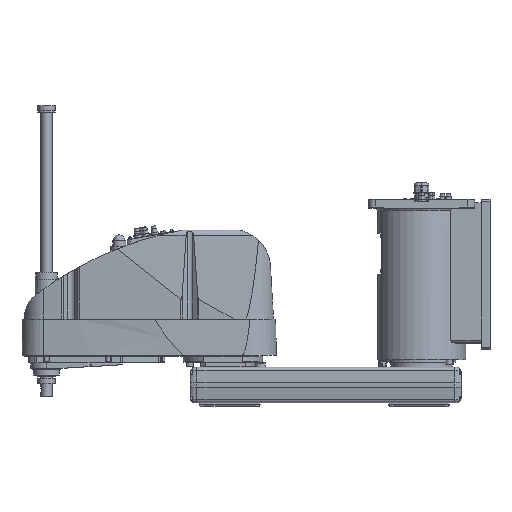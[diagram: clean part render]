
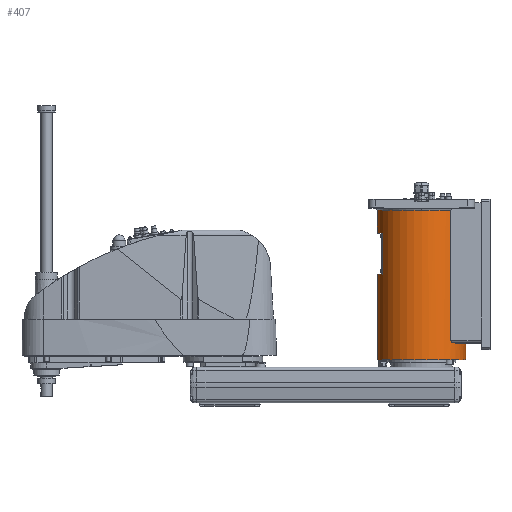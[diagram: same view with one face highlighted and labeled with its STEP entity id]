
A CAD part, top view. The second image highlights one B-rep face of the part: STEP entity #407.
In plain terms, the highlighted cylindrical face has radius 100 mm (diameter 200 mm), a partial arc.
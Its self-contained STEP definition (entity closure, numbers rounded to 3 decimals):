
#407 = ADVANCED_FACE( '', ( #2440 ), #2441, .T. );
#2440 = FACE_OUTER_BOUND( '', #6441, .T. );
#2441 = CYLINDRICAL_SURFACE( '', #6442, 100. );
#6441 = EDGE_LOOP( '', ( #11411, #11412, #11413, #11414, #11415, #11416, #11417, #11418, #11419, #11420, #11421, #11422, #11423, #11424, #11425, #11426 ) );
#6442 = AXIS2_PLACEMENT_3D( '', #11427, #11428, #11429 );
#11411 = ORIENTED_EDGE( '', *, *, #25046, .T. );
#11412 = ORIENTED_EDGE( '', *, *, #25154, .T. );
#11413 = ORIENTED_EDGE( '', *, *, #25145, .T. );
#11414 = ORIENTED_EDGE( '', *, *, #25141, .T. );
#11415 = ORIENTED_EDGE( '', *, *, #25148, .T. );
#11416 = ORIENTED_EDGE( '', *, *, #25153, .T. );
#11417 = ORIENTED_EDGE( '', *, *, #25157, .T. );
#11418 = ORIENTED_EDGE( '', *, *, #25158, .T. );
#11419 = ORIENTED_EDGE( '', *, *, #24481, .F. );
#11420 = ORIENTED_EDGE( '', *, *, #24486, .F. );
#11421 = ORIENTED_EDGE( '', *, *, #25052, .T. );
#11422 = ORIENTED_EDGE( '', *, *, #25159, .T. );
#11423 = ORIENTED_EDGE( '', *, *, #25160, .T. );
#11424 = ORIENTED_EDGE( '', *, *, #25161, .T. );
#11425 = ORIENTED_EDGE( '', *, *, #25048, .T. );
#11426 = ORIENTED_EDGE( '', *, *, #25162, .T. );
#11427 = CARTESIAN_POINT( '', ( 0., 194., 0. ) );
#11428 = DIRECTION( '', ( 0., -1., 0. ) );
#11429 = DIRECTION( '', ( 1., 0., 0. ) );
#24481 = EDGE_CURVE( '', #28928, #28930, #28931, .T. );
#24486 = EDGE_CURVE( '', #28938, #28928, #28940, .T. );
#25046 = EDGE_CURVE( '', #30032, #30033, #30034, .T. );
#25048 = EDGE_CURVE( '', #30037, #30035, #30038, .T. );
#25052 = EDGE_CURVE( '', #28938, #30043, #30045, .T. );
#25141 = EDGE_CURVE( '', #30191, #30192, #30193, .T. );
#25145 = EDGE_CURVE( '', #30199, #30191, #30200, .T. );
#25148 = EDGE_CURVE( '', #30192, #30204, #30205, .T. );
#25153 = EDGE_CURVE( '', #30204, #30211, #30213, .T. );
#25154 = EDGE_CURVE( '', #30033, #30199, #30214, .T. );
#25157 = EDGE_CURVE( '', #30211, #30218, #30219, .T. );
#25158 = EDGE_CURVE( '', #30218, #28930, #30220, .T. );
#25159 = EDGE_CURVE( '', #30043, #30221, #30222, .T. );
#25160 = EDGE_CURVE( '', #30221, #30223, #30224, .T. );
#25161 = EDGE_CURVE( '', #30223, #30037, #30225, .T. );
#25162 = EDGE_CURVE( '', #30035, #30032, #30226, .T. );
#28928 = VERTEX_POINT( '', #36272 );
#28930 = VERTEX_POINT( '', #36274 );
#28931 = CIRCLE( '', #36275, 100. );
#28938 = VERTEX_POINT( '', #36309 );
#28940 = CIRCLE( '', #36311, 100. );
#30032 = VERTEX_POINT( '', #37683 );
#30033 = VERTEX_POINT( '', #37684 );
#30034 = LINE( '', #37685, #37686 );
#30035 = VERTEX_POINT( '', #37687 );
#30037 = VERTEX_POINT( '', #37689 );
#30038 = LINE( '', #37690, #37691 );
#30043 = VERTEX_POINT( '', #37697 );
#30045 = LINE( '', #37699, #37700 );
#30191 = VERTEX_POINT( '', #37922 );
#30192 = VERTEX_POINT( '', #37923 );
#30193 = CIRCLE( '', #37924, 100. );
#30199 = VERTEX_POINT( '', #37933 );
#30200 = LINE( '', #37934, #37935 );
#30204 = VERTEX_POINT( '', #37941 );
#30205 = LINE( '', #37942, #37943 );
#30211 = VERTEX_POINT( '', #37952 );
#30213 = CIRCLE( '', #37955, 100. );
#30214 = CIRCLE( '', #37956, 100. );
#30218 = VERTEX_POINT( '', #37962 );
#30219 = B_SPLINE_CURVE_WITH_KNOTS( '', 3, ( #37963, #37964, #37965, #37966, #37967, #37968, #37969, #37970, #37971, #37972, #37973, #37974, #37975, #37976, #37977, #37978, #37979, #37980 ), .UNSPECIFIED., .F., .F., ( 4, 2, 2, 2, 2, 2, 2, 2, 4 ), ( 7.241, 8.361, 9.482, 10.602, 11.722, 12.472, 13.222, 13.972, 14.722 ), .UNSPECIFIED. );
#30220 = LINE( '', #37981, #37982 );
#30221 = VERTEX_POINT( '', #37983 );
#30222 = CIRCLE( '', #37984, 100. );
#30223 = VERTEX_POINT( '', #37985 );
#30224 = LINE( '', #37986, #37987 );
#30225 = CIRCLE( '', #37988, 100. );
#30226 = CIRCLE( '', #37989, 100. );
#36272 = CARTESIAN_POINT( '', ( 0., 363., 100. ) );
#36274 = CARTESIAN_POINT( '', ( 66.144, 363., 75. ) );
#36275 = AXIS2_PLACEMENT_3D( '', #48055, #48056, #48057 );
#36309 = CARTESIAN_POINT( '', ( -100., 363., 0. ) );
#36311 = AXIS2_PLACEMENT_3D( '', #48067, #48068, #48069 );
#37683 = CARTESIAN_POINT( '', ( 100., 25., 0. ) );
#37684 = CARTESIAN_POINT( '', ( 100., 64., 0. ) );
#37685 = CARTESIAN_POINT( '', ( 100., 194., 0. ) );
#37686 = VECTOR( '', #49187, 1. );
#37687 = CARTESIAN_POINT( '', ( -100., 25., 0. ) );
#37689 = CARTESIAN_POINT( '', ( -100., 218.3, 0. ) );
#37690 = CARTESIAN_POINT( '', ( -100., 194., 0. ) );
#37691 = VECTOR( '', #49191, 1. );
#37697 = CARTESIAN_POINT( '', ( -100., 311.3, 0. ) );
#37699 = CARTESIAN_POINT( '', ( -100., 194., 0. ) );
#37700 = VECTOR( '', #49199, 1. );
#37922 = CARTESIAN_POINT( '', ( 89.303, 62., 45. ) );
#37923 = CARTESIAN_POINT( '', ( 75.993, 62., 65. ) );
#37924 = AXIS2_PLACEMENT_3D( '', #49343, #49344, #49345 );
#37933 = CARTESIAN_POINT( '', ( 89.303, 64., 45. ) );
#37934 = CARTESIAN_POINT( '', ( 89.303, 63., 45. ) );
#37935 = VECTOR( '', #49349, 1. );
#37941 = CARTESIAN_POINT( '', ( 75.993, 64., 65. ) );
#37942 = CARTESIAN_POINT( '', ( 75.993, 63., 65. ) );
#37943 = VECTOR( '', #49352, 1. );
#37952 = CARTESIAN_POINT( '', ( 70.42, 64., 71. ) );
#37955 = AXIS2_PLACEMENT_3D( '', #49357, #49358, #49359 );
#37956 = AXIS2_PLACEMENT_3D( '', #49360, #49361, #49362 );
#37962 = CARTESIAN_POINT( '', ( 66.144, 68., 75. ) );
#37963 = CARTESIAN_POINT( '', ( 70.42, 64., 71. ) );
#37964 = CARTESIAN_POINT( '', ( 70.155, 64., 71.263 ) );
#37965 = CARTESIAN_POINT( '', ( 69.877, 64.026, 71.535 ) );
#37966 = CARTESIAN_POINT( '', ( 69.316, 64.139, 72.08 ) );
#37967 = CARTESIAN_POINT( '', ( 69.031, 64.224, 72.352 ) );
#37968 = CARTESIAN_POINT( '', ( 68.475, 64.457, 72.879 ) );
#37969 = CARTESIAN_POINT( '', ( 68.203, 64.604, 73.134 ) );
#37970 = CARTESIAN_POINT( '', ( 67.688, 64.954, 73.61 ) );
#37971 = CARTESIAN_POINT( '', ( 67.446, 65.158, 73.831 ) );
#37972 = CARTESIAN_POINT( '', ( 67.082, 65.542, 74.162 ) );
#37973 = CARTESIAN_POINT( '', ( 66.938, 65.716, 74.292 ) );
#37974 = CARTESIAN_POINT( '', ( 66.674, 66.103, 74.529 ) );
#37975 = CARTESIAN_POINT( '', ( 66.555, 66.315, 74.636 ) );
#37976 = CARTESIAN_POINT( '', ( 66.356, 66.766, 74.812 ) );
#37977 = CARTESIAN_POINT( '', ( 66.277, 67.005, 74.882 ) );
#37978 = CARTESIAN_POINT( '', ( 66.171, 67.497, 74.976 ) );
#37979 = CARTESIAN_POINT( '', ( 66.144, 67.75, 75. ) );
#37980 = CARTESIAN_POINT( '', ( 66.144, 68., 75. ) );
#37981 = CARTESIAN_POINT( '', ( 66.144, 215.5, 75. ) );
#37982 = VECTOR( '', #49365, 1. );
#37983 = CARTESIAN_POINT( '', ( -88., 311.3, 47.497 ) );
#37984 = AXIS2_PLACEMENT_3D( '', #49366, #49367, #49368 );
#37985 = CARTESIAN_POINT( '', ( -88., 218.3, 47.497 ) );
#37986 = CARTESIAN_POINT( '', ( -88., 264.8, 47.497 ) );
#37987 = VECTOR( '', #49369, 1. );
#37988 = AXIS2_PLACEMENT_3D( '', #49370, #49371, #49372 );
#37989 = AXIS2_PLACEMENT_3D( '', #49373, #49374, #49375 );
#48055 = CARTESIAN_POINT( '', ( 0., 363., 0. ) );
#48056 = DIRECTION( '', ( 0., 1., 0. ) );
#48057 = DIRECTION( '', ( 1., 0., 0. ) );
#48067 = CARTESIAN_POINT( '', ( 0., 363., 0. ) );
#48068 = DIRECTION( '', ( 0., 1., 0. ) );
#48069 = DIRECTION( '', ( 1., 0., 0. ) );
#49187 = DIRECTION( '', ( 0., 1., 0. ) );
#49191 = DIRECTION( '', ( 0., -1., 0. ) );
#49199 = DIRECTION( '', ( 0., -1., 0. ) );
#49343 = CARTESIAN_POINT( '', ( 0., 62., 0. ) );
#49344 = DIRECTION( '', ( 0., -1., 0. ) );
#49345 = DIRECTION( '', ( 1., 0., 0. ) );
#49349 = DIRECTION( '', ( 0., -1., 0. ) );
#49352 = DIRECTION( '', ( 0., 1., 0. ) );
#49357 = CARTESIAN_POINT( '', ( 0., 64., 0. ) );
#49358 = DIRECTION( '', ( 0., -1., 0. ) );
#49359 = DIRECTION( '', ( 1., 0., 0. ) );
#49360 = CARTESIAN_POINT( '', ( 0., 64., 0. ) );
#49361 = DIRECTION( '', ( 0., -1., 0. ) );
#49362 = DIRECTION( '', ( 1., 0., 0. ) );
#49365 = DIRECTION( '', ( 0., 1., 0. ) );
#49366 = CARTESIAN_POINT( '', ( 0., 311.3, 0. ) );
#49367 = DIRECTION( '', ( 0., 1., 0. ) );
#49368 = DIRECTION( '', ( 1., 0., 0. ) );
#49369 = DIRECTION( '', ( 0., -1., 0. ) );
#49370 = CARTESIAN_POINT( '', ( 0., 218.3, 0. ) );
#49371 = DIRECTION( '', ( 0., -1., 0. ) );
#49372 = DIRECTION( '', ( 1., 0., 0. ) );
#49373 = CARTESIAN_POINT( '', ( 0., 25., 0. ) );
#49374 = DIRECTION( '', ( 0., 1., 0. ) );
#49375 = DIRECTION( '', ( 1., 0., 0. ) );
